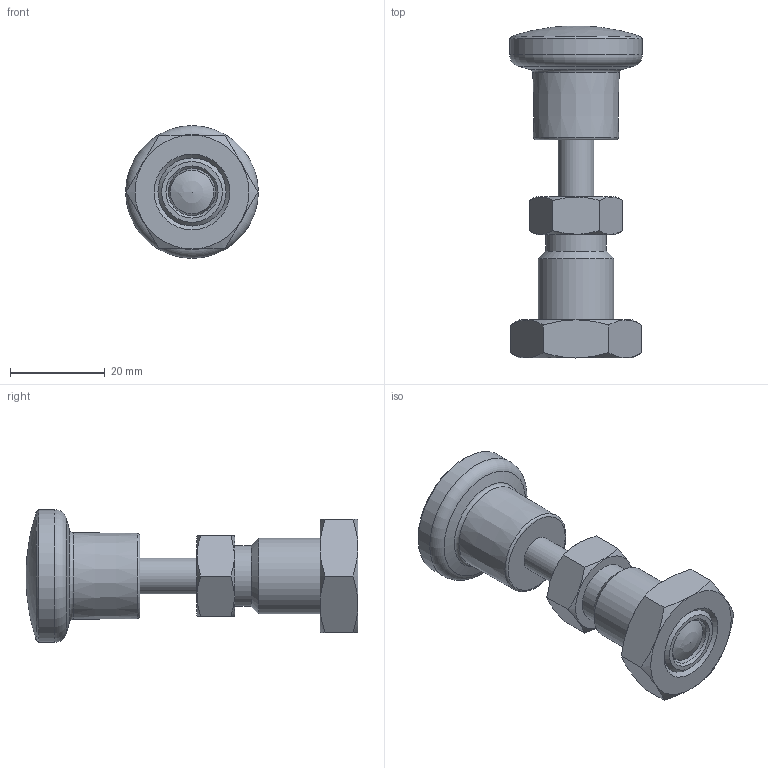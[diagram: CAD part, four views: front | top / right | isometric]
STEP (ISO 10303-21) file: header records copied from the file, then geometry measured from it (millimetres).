
FILE_DESCRIPTION( ( 'STEP AP203' ), '1' );
FILE_NAME( 'C:/Temp/Ganter_Step_05_03_2020/data/3_1/gn817/gn817_ni-rastbolzen_rot/Stainless Steel-Indexing plunger GN 817-10-12-BK-NI-RT (activated-0).stp', '2020-03-12T09:00:35', ( 'License CC BY-ND 4.0' ), ( 'CADENAS' ), ' ', 'PARTsolutions', ' ' );
FILE_SCHEMA( ( 'CONFIG_CONTROL_DESIGN' ) );
Length unit declared in the file: millimetre
Products named in the file (5): Stainless Steel-Indexing plunger GN 817-10-12-BK-NI-RT (activated-0); _Stainless steel-Indexing plunger GN 817-10-12-BK-NI-RT (activated-0)-d; _Stainless steel-Indexing plunger GN 817-10-12-B-NI-RT-2; _Stainless Steel Indexing plunger GN 817-10-12-B-NI-RT-1; _Stainless steel-Indexing plunger GN 817-10-12-BK-NI-RT (deactivated-0)-3
Assembly tree (4 placements, depth 2):
  Stainless Steel-Indexing plunger GN 817-10-12-BK-NI-RT (activated-0)
    _Stainless steel-Indexing plunger GN 817-10-12-BK-NI-RT (activated-0)-d
    _Stainless steel-Indexing plunger GN 817-10-12-B-NI-RT-2
    _Stainless Steel Indexing plunger GN 817-10-12-B-NI-RT-1
    _Stainless steel-Indexing plunger GN 817-10-12-BK-NI-RT (deactivated-0)-3
Bounding box: 28 x 70 x 28 mm (x, y, z)
Volume: 18456.3 mm3; surface area: 8647.7 mm2
Topology: 3 solids, 3 shells, 59 faces, 122 edges, 72 vertices
Faces by surface type: cone 24, plane 20, cylinder 8, torus 5, bspline 1, sphere 1
Full cylindrical faces by diameter (mm): 7.5 x2, 10 x2, 12.8 x1, 14.376 x1, 16 x1, 28 x1
Entity records: 1775 total; most frequent: CARTESIAN_POINT 522, DIRECTION 226, ORIENTED_EDGE 184, AXIS2_PLACEMENT_3D 107, EDGE_LOOP 92, EDGE_CURVE 92, FACE_OUTER_BOUND 72, VERTEX_POINT 70
